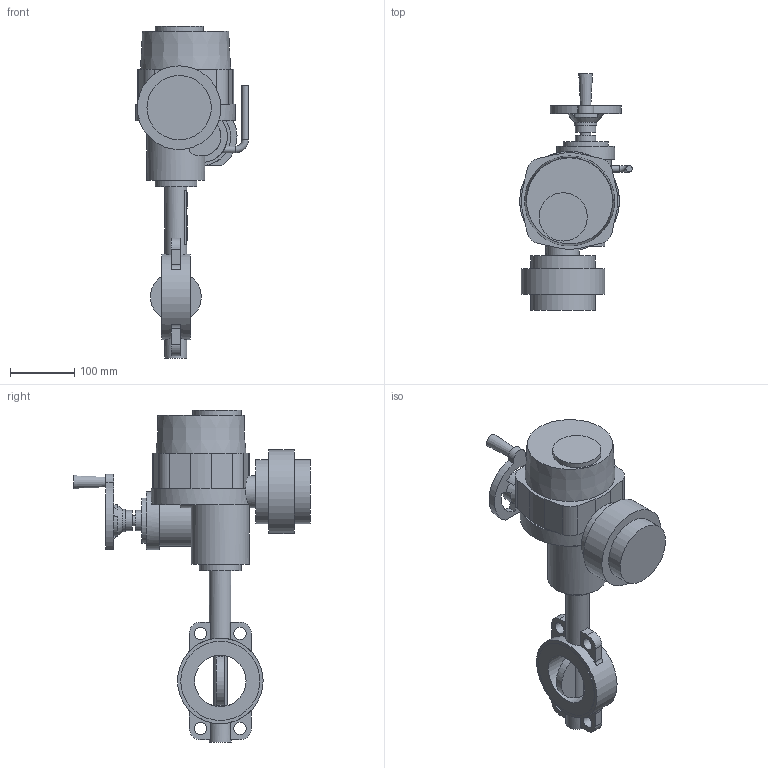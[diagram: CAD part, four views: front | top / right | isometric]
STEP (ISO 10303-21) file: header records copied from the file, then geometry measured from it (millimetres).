
FILE_DESCRIPTION(('STEP AP203'), '1');
FILE_NAME('Çàòâîð 017W.Z(÷óãóí) DN80+ÝÏ QT.A005', '', ('UNSPECIFIED'), ('UNSPECIFIED'), 'ASCON STEP Converter 1.6', 'ASCON Math Kernel', '');
FILE_SCHEMA(('CONFIG_CONTROL_DESIGN'));
Length unit declared in the file: millimetre
Bounding box: 175 x 368 x 516 mm (x, y, z)
Volume: 4556484.4 mm3; surface area: 342000 mm2
Topology: 1 solids, 2 shells, 748 faces, 2135 edges, 1375 vertices
Faces by surface type: cylinder 516, plane 228, cone 3, torus 1
Full cylindrical faces by diameter (mm): 6.7 x8, 8 x4, 10 x2, 12.6 x1, 16 x1, 19 x4, 20 x1, 21 x1, 32 x2, 34 x2, 35 x2, 50 x1, 65 x1, 70 x1, 75 x1, 80 x1, 90 x2, 100 x2, 123 x2, 130 x1, 133 x1
Entity records: 31940 total; most frequent: CARTESIAN_POINT 5520, DIRECTION 4672, ORIENTED_EDGE 4119, EDGE_CURVE 2091, AXIS2_PLACEMENT_3D 1860, VERTEX_POINT 1375, CIRCLE 1111, LINE 952
